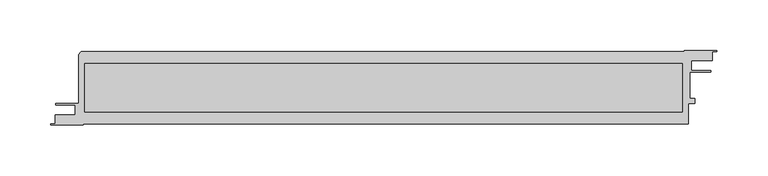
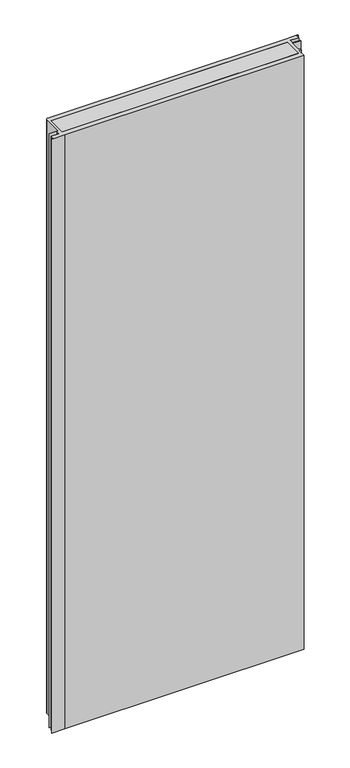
"""IFC4 building model written with IfcOpenShell, lengths in millimetres: plate geometry, Walls_External-Walls_Danpal_Danpatherm-K7-with-AIRPT-Frame : Walls_External-Walls_Danpal_Danpatherm-K7-with-AIRPT-Frame."""

from ifc_helpers import new_model, si_unit, point, frame, frame_2d, origin, place, context, project, spatial, polyline, circle_curve, trimmed, segment, composite_curve, outline, extrude, source, transform, mapped, element, save


def plate_009a9a5f(model_context):
    return source(origin(), model_context, "Body", "SweptSolid", [
        extrude(outline(polyline([(279.3176513, 12.7999917), (-309.4036211, 12.7999917), (-309.4036211, 60.3432727), (279.3176513, 60.3432727), (279.3176513, 12.7999917)])), frame((0.0, 0.0, -22.0), z_axis=(0.0, 0.0, 1.0), x_axis=(1.0, 0.0, 0.0)), (0.0, 0.0, 1.0), 1562.0),
        extrude(outline(composite_curve([segment(polyline([(307.1570352, 53.4717617), (307.1570352, 52.1717185), (286.2570144, 52.1717185), (286.2570144, 26.0716456), (291.2570149, 26.0716456), (291.2570149, 20.9715623), (284.9570149, 20.9715623), (284.9570149, 0.8), (-310.7429914, 0.8), (-310.7429914, 0.0), (-342.6429914, 0.0), (-342.6429914, 0.8), (-338.4429914, 0.8), (-338.4429914, 9.7656785), (-318.6132316, 9.7656785), (-318.6132316, 19.6715177), (-337.5693772, 19.6715177), (-337.5693772, 20.9715623), (-315.0, 20.9715623), (-315.0, 68.5003761)]), True, "CONTINUOUS"), segment(trimmed(circle_curve(frame_2d((-311.1570911, 68.5003761)), 3.8429089), [point((-315.0, 68.5003761))], [point((-311.1570911, 72.343285))], False, "CARTESIAN"), True, "CONTINUOUS"), segment(polyline([(-311.1570911, 72.343285), (281.0568579, 72.343285), (281.0568579, 73.143285), (312.9568579, 73.143285), (312.9568579, 72.343285), (308.6568579, 72.343285), (308.6568579, 63.4717658), (287.7588048, 63.4717658), (287.7588048, 53.4717617), (307.1570352, 53.4717617)]), True, "CONTINUOUS")], self_intersect=False), holes=[polyline([(279.3176513, 12.7999917), (279.3176513, 60.3432727), (-309.4036211, 60.3432727), (-309.4036211, 12.7999917), (279.3176513, 12.7999917)])]), frame((0.0, 0.0, -22.0), z_axis=(0.0, 0.0, 1.0), x_axis=(1.0, 0.0, 0.0)), (0.0, 0.0, 1.0), 1562.0),
    ])


if __name__ == "__main__":
    model = new_model("IFC4")
    model_context = context("Model", 3, world=origin())
    ifc_project = project(units=[si_unit("LENGTHUNIT", "METRE", prefix="MILLI")], contexts=[model_context])
    site = spatial("IfcSite", under=ifc_project)
    building = spatial("IfcBuilding", under=site)
    placement = place(None, origin())
    plate_shape = plate_009a9a5f(model_context)
    element("IfcPlate", 1, ObjectType="Walls_External-Walls_Danpal_Danpatherm-K7-with-AIRPT-Frame : Walls_External-Walls_Danpal_Danpatherm-K7-with-AIRPT-Frame", at=placement, inside=building, context=model_context, shape_type="MappedRepresentation", body=[
        mapped(plate_shape, transform((0.0, 0.0, 0.0), x_axis=(1.0, 0.0, 0.0), y_axis=(0.0, 1.0, 0.0), z_axis=(0.0, 0.0, 1.0))),
    ])
    save(model, "model.ifc")
